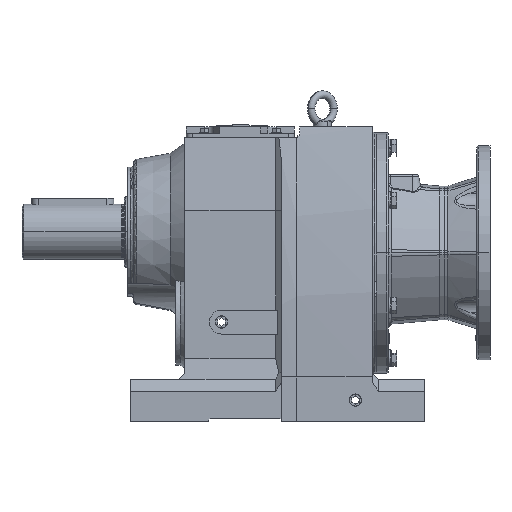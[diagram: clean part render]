
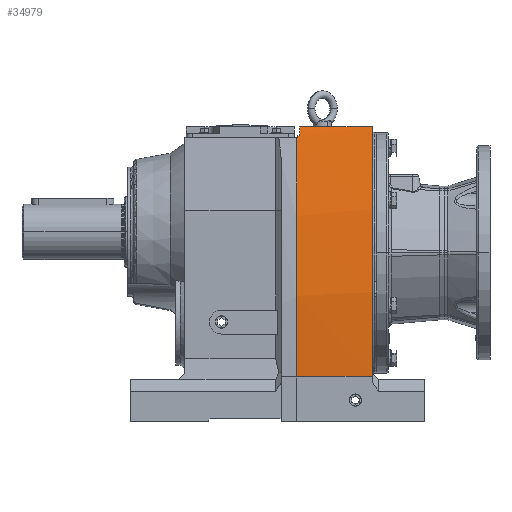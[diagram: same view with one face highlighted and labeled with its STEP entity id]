
A CAD part, front view. The second image highlights one B-rep face of the part: STEP entity #34979.
In plain terms, the highlighted cylindrical face has radius 1250 mm (diameter 2500 mm), a partial arc.
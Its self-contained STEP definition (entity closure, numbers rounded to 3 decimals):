
#3892 = LINE ( 'NONE', #35694, #24723 ) ;
#6587 = LINE ( 'NONE', #33445, #15651 ) ;
#6591 = LINE ( 'NONE', #32059, #15571 ) ;
#6614 = LINE ( 'NONE', #33243, #15378 ) ;
#10800 = VERTEX_POINT ( 'NONE', #21999 ) ;
#10814 = VERTEX_POINT ( 'NONE', #21983 ) ;
#11110 = VERTEX_POINT ( 'NONE', #28164 ) ;
#11183 = VERTEX_POINT ( 'NONE', #27670 ) ;
#11207 = VERTEX_POINT ( 'NONE', #27533 ) ;
#11322 = VERTEX_POINT ( 'NONE', #29310 ) ;
#11804 = VERTEX_POINT ( 'NONE', #28247 ) ;
#11805 = VERTEX_POINT ( 'NONE', #28243 ) ;
#12116 = EDGE_CURVE ( 'NONE', #10814, #10800, #6614, .T. ) ;
#12169 = EDGE_CURVE ( 'NONE', #10800, #11110, #15547, .T. ) ;
#12174 = EDGE_CURVE ( 'NONE', #11322, #11110, #6591, .T. ) ;
#12175 = EDGE_CURVE ( 'NONE', #11207, #11322, #15531, .T. ) ;
#12181 = EDGE_CURVE ( 'NONE', #11207, #11183, #6587, .T. ) ;
#12182 = EDGE_CURVE ( 'NONE', #11805, #11183, #15656, .T. ) ;
#12183 = EDGE_CURVE ( 'NONE', #10814, #11804, #15570, .T. ) ;
#14207 = DIRECTION ( 'NONE',  ( 0., 0., 1. ) ) ;
#14208 = DIRECTION ( 'NONE',  ( -1., 0., 0. ) ) ;
#14209 = CARTESIAN_POINT ( 'NONE',  ( 414., 1023.274, -174.534 ) ) ;
#15378 = VECTOR ( 'NONE', #33237, 1000. ) ;
#15531 = CIRCLE ( 'NONE', #15541, 1250. ) ;
#15541 = AXIS2_PLACEMENT_3D ( 'NONE', #32021, #32019, #32017 ) ;
#15544 = AXIS2_PLACEMENT_3D ( 'NONE', #32194, #32191, #32186 ) ;
#15547 = CIRCLE ( 'NONE', #15544, 1250. ) ;
#15570 = CIRCLE ( 'NONE', #15646, 1250. ) ;
#15571 = VECTOR ( 'NONE', #32051, 1000. ) ;
#15646 = AXIS2_PLACEMENT_3D ( 'NONE', #33428, #33426, #33420 ) ;
#15648 = AXIS2_PLACEMENT_3D ( 'NONE', #33435, #33433, #33431 ) ;
#15651 = VECTOR ( 'NONE', #33439, 1000. ) ;
#15656 = CIRCLE ( 'NONE', #15648, 1250. ) ;
#18471 = AXIS2_PLACEMENT_3D ( 'NONE', #14209, #14208, #14207 ) ;
#19743 = CYLINDRICAL_SURFACE ( 'NONE', #18471, 1250. ) ;
#19746 = FACE_OUTER_BOUND ( 'NONE', #31721, .T. ) ;
#21554 = ORIENTED_EDGE ( 'NONE', *, *, #12181, .T. ) ;
#21555 = ORIENTED_EDGE ( 'NONE', *, *, #12175, .F. ) ;
#21556 = ORIENTED_EDGE ( 'NONE', *, *, #12169, .T. ) ;
#21557 = ORIENTED_EDGE ( 'NONE', *, *, #12116, .T. ) ;
#21558 = ORIENTED_EDGE ( 'NONE', *, *, #12174, .F. ) ;
#21559 = ORIENTED_EDGE ( 'NONE', *, *, #12183, .F. ) ;
#21560 = ORIENTED_EDGE ( 'NONE', *, *, #25605, .F. ) ;
#21983 = CARTESIAN_POINT ( 'NONE',  ( 288., -225., -240.2 ) ) ;
#21999 = CARTESIAN_POINT ( 'NONE',  ( 414., -225., -240.2 ) ) ;
#24723 = VECTOR ( 'NONE', #35692, 1000. ) ;
#25605 = EDGE_CURVE ( 'NONE', #11804, #11805, #3892, .T. ) ;
#27533 = CARTESIAN_POINT ( 'NONE',  ( 293., -181.129, 160. ) ) ;
#27670 = CARTESIAN_POINT ( 'NONE',  ( 290., -181.129, 160. ) ) ;
#28164 = CARTESIAN_POINT ( 'NONE',  ( 414., -176.92, 174.8 ) ) ;
#28243 = CARTESIAN_POINT ( 'NONE',  ( 290., -181.958, 157. ) ) ;
#28247 = CARTESIAN_POINT ( 'NONE',  ( 288., -181.958, 157. ) ) ;
#29310 = CARTESIAN_POINT ( 'NONE',  ( 293., -176.92, 174.8 ) ) ;
#30873 = ORIENTED_EDGE ( 'NONE', *, *, #12182, .F. ) ;
#31721 = EDGE_LOOP ( 'NONE', ( #30873, #21560, #21559, #21557, #21556, #21558, #21555, #21554 ) ) ;
#32017 = DIRECTION ( 'NONE',  ( 0., 0., 1. ) ) ;
#32019 = DIRECTION ( 'NONE',  ( -1., 0., 0. ) ) ;
#32021 = CARTESIAN_POINT ( 'NONE',  ( 293., 1023.274, -174.534 ) ) ;
#32051 = DIRECTION ( 'NONE',  ( 1., 0., 0. ) ) ;
#32059 = CARTESIAN_POINT ( 'NONE',  ( 414., -176.92, 174.8 ) ) ;
#32186 = DIRECTION ( 'NONE',  ( 0., 0., 1. ) ) ;
#32191 = DIRECTION ( 'NONE',  ( -1., 0., 0. ) ) ;
#32194 = CARTESIAN_POINT ( 'NONE',  ( 414., 1023.274, -174.534 ) ) ;
#33237 = DIRECTION ( 'NONE',  ( 1., 0., 0. ) ) ;
#33243 = CARTESIAN_POINT ( 'NONE',  ( 414., -225., -240.2 ) ) ;
#33420 = DIRECTION ( 'NONE',  ( 0., 0., 1. ) ) ;
#33426 = DIRECTION ( 'NONE',  ( -1., 0., 0. ) ) ;
#33428 = CARTESIAN_POINT ( 'NONE',  ( 288., 1023.274, -174.534 ) ) ;
#33431 = DIRECTION ( 'NONE',  ( 0., 1., 0. ) ) ;
#33433 = DIRECTION ( 'NONE',  ( -1., 0., 0. ) ) ;
#33435 = CARTESIAN_POINT ( 'NONE',  ( 290., 1023.274, -174.534 ) ) ;
#33439 = DIRECTION ( 'NONE',  ( -1., 0., 0. ) ) ;
#33445 = CARTESIAN_POINT ( 'NONE',  ( 293., -181.129, 160. ) ) ;
#34979 = ADVANCED_FACE ( 'NONE', ( #19746 ), #19743, .T. ) ;
#35692 = DIRECTION ( 'NONE',  ( 1., 0., 0. ) ) ;
#35694 = CARTESIAN_POINT ( 'NONE',  ( 414., -181.958, 157. ) ) ;
